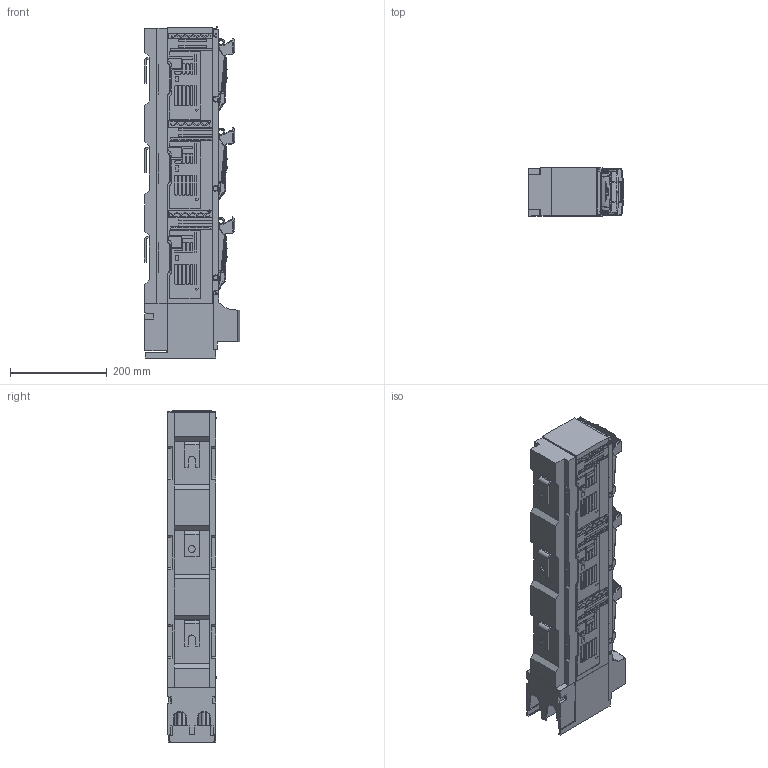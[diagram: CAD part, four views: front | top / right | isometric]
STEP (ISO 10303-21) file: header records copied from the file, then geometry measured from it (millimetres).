
FILE_DESCRIPTION(/* description */ (''),/* implementation_level */ '2;1');
FILE_NAME(/* name */ 'smartARS 2-1-V pro.stp',/* time_stamp */ '2018-07-16T09:39:02+02:00',/* author */ (''),/* organization */ (''),/* preprocessor_version */ 'ST-DEVELOPER v16',/* originating_system */ 'SIEMENS PLM Software NX 10.0',/* authorisation */ '');
FILE_SCHEMA (('AUTOMOTIVE_DESIGN { 1 0 10303 214 3 1 1 1 }'));
Products named in the file (1): 710_0AD4EC05y3hj
Bounding box: 197.08 x 99.58 x 687.31 mm (x, y, z)
Volume: 8657526.3 mm3; surface area: 756064 mm2
Topology: 1 solids, 13 shells, 6243 faces, 16408 edges, 10247 vertices
Faces by surface type: plane 2570, bspline 1942, cylinder 969, extrusion 395, torus 138, cone 115, sphere 114
Full cylindrical faces by diameter (mm): 3.5 x4, 3.7 x4, 9.6 x2, 14 x1
Entity records: 293850 total; most frequent: CARTESIAN_POINT 158297, ORIENTED_EDGE 32452, DIRECTION 21659, EDGE_CURVE 16226, VERTEX_POINT 10228, VECTOR 7729, LINE 7334, AXIS2_PLACEMENT_3D 6965
